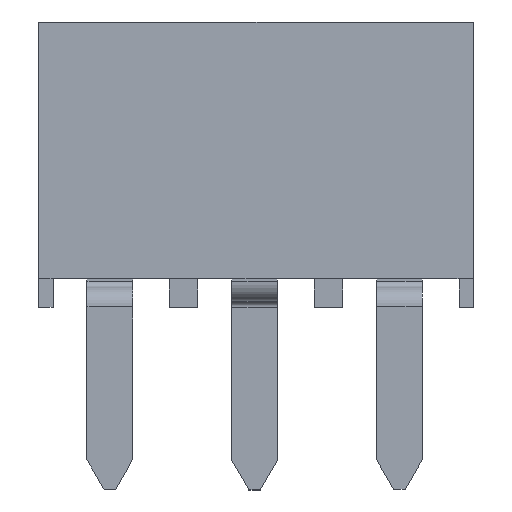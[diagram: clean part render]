
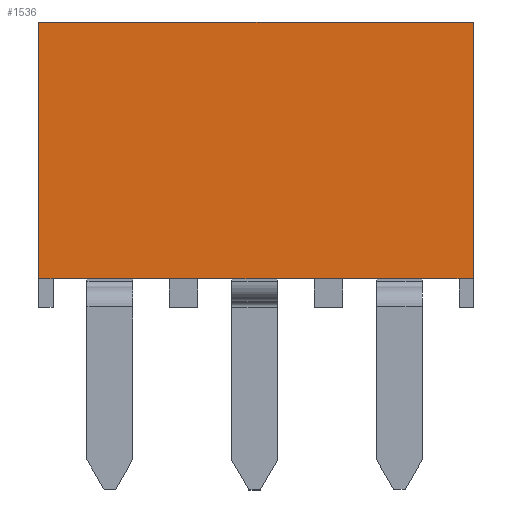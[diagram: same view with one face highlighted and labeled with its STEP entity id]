
A CAD part, top view. The second image highlights one B-rep face of the part: STEP entity #1536.
In plain terms, the highlighted planar face has unit normal (0, 0, 1).
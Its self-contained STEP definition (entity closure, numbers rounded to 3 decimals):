
#11 = LINE ( 'NONE', #1506, #1778 ) ;
#14 = VECTOR ( 'NONE', #1829, 1000. ) ;
#29 = ORIENTED_EDGE ( 'NONE', *, *, #1861, .T. ) ;
#51 = DIRECTION ( 'NONE',  ( 1., 0., 0. ) ) ;
#69 = LINE ( 'NONE', #2442, #1865 ) ;
#79 = CARTESIAN_POINT ( 'NONE',  ( 475.352, 169.787, 2.5 ) ) ;
#90 = EDGE_CURVE ( 'NONE', #1169, #1824, #1073, .T. ) ;
#128 = VERTEX_POINT ( 'NONE', #2032 ) ;
#146 = VECTOR ( 'NONE', #1118, 1000. ) ;
#158 = VECTOR ( 'NONE', #1123, 1000. ) ;
#163 = CARTESIAN_POINT ( 'NONE',  ( 475.352, 170.039, 2.5 ) ) ;
#179 = CARTESIAN_POINT ( 'NONE',  ( 473.062, 170.035, 2.5 ) ) ;
#229 = ORIENTED_EDGE ( 'NONE', *, *, #1689, .T. ) ;
#288 = ORIENTED_EDGE ( 'NONE', *, *, #2276, .T. ) ;
#292 = EDGE_LOOP ( 'NONE', ( #1708, #2456, #1380, #1174, #717, #1881, #229, #2432, #2153, #733, #1310, #29, #1377, #512, #641, #288 ) ) ;
#311 = VECTOR ( 'NONE', #1499, 1000. ) ;
#364 = VERTEX_POINT ( 'NONE', #1578 ) ;
#389 = CARTESIAN_POINT ( 'NONE',  ( 480.432, 170.035, 2.5 ) ) ;
#401 = VERTEX_POINT ( 'NONE', #1187 ) ;
#503 = VECTOR ( 'NONE', #1428, 1000. ) ;
#512 = ORIENTED_EDGE ( 'NONE', *, *, #90, .T. ) ;
#513 = CARTESIAN_POINT ( 'NONE',  ( 476.872, 174.539, 2.5 ) ) ;
#523 = CARTESIAN_POINT ( 'NONE',  ( 477.892, 170.035, 2.5 ) ) ;
#532 = CARTESIAN_POINT ( 'NONE',  ( 478.392, 170.039, 2.5 ) ) ;
#535 = CARTESIAN_POINT ( 'NONE',  ( 475.852, 169.787, 2.5 ) ) ;
#559 = LINE ( 'NONE', #1875, #146 ) ;
#564 = LINE ( 'NONE', #1977, #14 ) ;
#574 = EDGE_CURVE ( 'NONE', #667, #770, #965, .T. ) ;
#577 = CARTESIAN_POINT ( 'NONE',  ( 473.312, 170.039, 2.5 ) ) ;
#596 = VECTOR ( 'NONE', #2035, 1000. ) ;
#641 = ORIENTED_EDGE ( 'NONE', *, *, #2481, .T. ) ;
#649 = VERTEX_POINT ( 'NONE', #389 ) ;
#660 = CARTESIAN_POINT ( 'NONE',  ( 477.892, 169.787, 2.5 ) ) ;
#667 = VERTEX_POINT ( 'NONE', #2106 ) ;
#686 = EDGE_CURVE ( 'NONE', #401, #1409, #2027, .T. ) ;
#710 = FACE_OUTER_BOUND ( 'NONE', #292, .T. ) ;
#717 = ORIENTED_EDGE ( 'NONE', *, *, #574, .T. ) ;
#721 = VERTEX_POINT ( 'NONE', #179 ) ;
#726 = DIRECTION ( 'NONE',  ( 0., 1., 0. ) ) ;
#733 = ORIENTED_EDGE ( 'NONE', *, *, #1021, .T. ) ;
#751 = EDGE_CURVE ( 'NONE', #1613, #649, #784, .T. ) ;
#761 = CARTESIAN_POINT ( 'NONE',  ( 480.432, 172.287, 2.5 ) ) ;
#770 = VERTEX_POINT ( 'NONE', #1752 ) ;
#774 = EDGE_CURVE ( 'NONE', #770, #128, #844, .T. ) ;
#784 = LINE ( 'NONE', #761, #1159 ) ;
#806 = VECTOR ( 'NONE', #952, 1000. ) ;
#822 = PLANE ( 'NONE',  #1730 ) ;
#844 = LINE ( 'NONE', #1952, #1071 ) ;
#888 = DIRECTION ( 'NONE',  ( -1., 0., 0. ) ) ;
#952 = DIRECTION ( 'NONE',  ( 1., 0., 0. ) ) ;
#965 = LINE ( 'NONE', #535, #158 ) ;
#976 = CARTESIAN_POINT ( 'NONE',  ( 473.062, 174.539, 2.5 ) ) ;
#991 = LINE ( 'NONE', #660, #1926 ) ;
#992 = EDGE_CURVE ( 'NONE', #2378, #2271, #1023, .T. ) ;
#1021 = EDGE_CURVE ( 'NONE', #1290, #1613, #564, .T. ) ;
#1023 = LINE ( 'NONE', #79, #1931 ) ;
#1026 = LINE ( 'NONE', #2016, #503 ) ;
#1056 = CARTESIAN_POINT ( 'NONE',  ( 480.432, 170.039, 2.5 ) ) ;
#1071 = VECTOR ( 'NONE', #51, 1000. ) ;
#1073 = LINE ( 'NONE', #513, #2185 ) ;
#1102 = DIRECTION ( 'NONE',  ( 1., 0., 0. ) ) ;
#1118 = DIRECTION ( 'NONE',  ( 1., 0., 0. ) ) ;
#1123 = DIRECTION ( 'NONE',  ( 0., 1., 0. ) ) ;
#1130 = CARTESIAN_POINT ( 'NONE',  ( 473.062, 172.287, 2.5 ) ) ;
#1144 = CARTESIAN_POINT ( 'NONE',  ( 476.872, 170.035, 2.5 ) ) ;
#1159 = VECTOR ( 'NONE', #2089, 1000. ) ;
#1169 = VERTEX_POINT ( 'NONE', #1264 ) ;
#1174 = ORIENTED_EDGE ( 'NONE', *, *, #1316, .T. ) ;
#1187 = CARTESIAN_POINT ( 'NONE',  ( 473.312, 170.035, 2.5 ) ) ;
#1239 = DIRECTION ( 'NONE',  ( 0., -1., 0. ) ) ;
#1244 = EDGE_CURVE ( 'NONE', #1409, #2378, #69, .T. ) ;
#1264 = CARTESIAN_POINT ( 'NONE',  ( 480.682, 174.539, 2.5 ) ) ;
#1283 = EDGE_CURVE ( 'NONE', #364, #1290, #11, .T. ) ;
#1290 = VERTEX_POINT ( 'NONE', #532 ) ;
#1310 = ORIENTED_EDGE ( 'NONE', *, *, #751, .T. ) ;
#1316 = EDGE_CURVE ( 'NONE', #2271, #667, #2323, .T. ) ;
#1333 = DIRECTION ( 'NONE',  ( 1., 0., 0. ) ) ;
#1377 = ORIENTED_EDGE ( 'NONE', *, *, #2286, .T. ) ;
#1380 = ORIENTED_EDGE ( 'NONE', *, *, #992, .T. ) ;
#1386 = DIRECTION ( 'NONE',  ( 1., 0., 0. ) ) ;
#1409 = VERTEX_POINT ( 'NONE', #577 ) ;
#1428 = DIRECTION ( 'NONE',  ( 1., 0., 0. ) ) ;
#1443 = CARTESIAN_POINT ( 'NONE',  ( 480.682, 170.035, 2.5 ) ) ;
#1453 = LINE ( 'NONE', #1130, #311 ) ;
#1499 = DIRECTION ( 'NONE',  ( 0., -1., 0. ) ) ;
#1506 = CARTESIAN_POINT ( 'NONE',  ( 478.392, 172.287, 2.5 ) ) ;
#1536 = ADVANCED_FACE ( 'NONE', ( #710 ), #822, .T. ) ;
#1578 = CARTESIAN_POINT ( 'NONE',  ( 478.392, 170.035, 2.5 ) ) ;
#1613 = VERTEX_POINT ( 'NONE', #1056 ) ;
#1632 = CARTESIAN_POINT ( 'NONE',  ( 475.352, 170.035, 2.5 ) ) ;
#1689 = EDGE_CURVE ( 'NONE', #128, #2312, #991, .T. ) ;
#1708 = ORIENTED_EDGE ( 'NONE', *, *, #686, .T. ) ;
#1730 = AXIS2_PLACEMENT_3D ( 'NONE', #1783, #1746, #1386 ) ;
#1743 = VECTOR ( 'NONE', #1333, 1000. ) ;
#1746 = DIRECTION ( 'NONE',  ( 0., 0., 1. ) ) ;
#1752 = CARTESIAN_POINT ( 'NONE',  ( 475.852, 170.039, 2.5 ) ) ;
#1778 = VECTOR ( 'NONE', #726, 1000. ) ;
#1783 = CARTESIAN_POINT ( 'NONE',  ( 473.062, 170.035, 2.5 ) ) ;
#1799 = VERTEX_POINT ( 'NONE', #1443 ) ;
#1824 = VERTEX_POINT ( 'NONE', #976 ) ;
#1829 = DIRECTION ( 'NONE',  ( 1., 0., 0. ) ) ;
#1861 = EDGE_CURVE ( 'NONE', #649, #1799, #559, .T. ) ;
#1864 = EDGE_CURVE ( 'NONE', #2312, #364, #2253, .T. ) ;
#1865 = VECTOR ( 'NONE', #1102, 1000. ) ;
#1875 = CARTESIAN_POINT ( 'NONE',  ( 476.872, 170.035, 2.5 ) ) ;
#1881 = ORIENTED_EDGE ( 'NONE', *, *, #774, .T. ) ;
#1926 = VECTOR ( 'NONE', #2379, 1000. ) ;
#1931 = VECTOR ( 'NONE', #1239, 1000. ) ;
#1952 = CARTESIAN_POINT ( 'NONE',  ( 476.872, 170.039, 2.5 ) ) ;
#1977 = CARTESIAN_POINT ( 'NONE',  ( 479.412, 170.039, 2.5 ) ) ;
#2016 = CARTESIAN_POINT ( 'NONE',  ( 476.872, 170.035, 2.5 ) ) ;
#2027 = LINE ( 'NONE', #2290, #2479 ) ;
#2032 = CARTESIAN_POINT ( 'NONE',  ( 477.892, 170.039, 2.5 ) ) ;
#2035 = DIRECTION ( 'NONE',  ( 0., 1., 0. ) ) ;
#2086 = CARTESIAN_POINT ( 'NONE',  ( 476.872, 170.035, 2.5 ) ) ;
#2089 = DIRECTION ( 'NONE',  ( 0., -1., 0. ) ) ;
#2106 = CARTESIAN_POINT ( 'NONE',  ( 475.852, 170.035, 2.5 ) ) ;
#2153 = ORIENTED_EDGE ( 'NONE', *, *, #1283, .T. ) ;
#2179 = LINE ( 'NONE', #2220, #596 ) ;
#2185 = VECTOR ( 'NONE', #888, 1000. ) ;
#2220 = CARTESIAN_POINT ( 'NONE',  ( 480.682, 172.287, 2.5 ) ) ;
#2253 = LINE ( 'NONE', #1144, #1743 ) ;
#2271 = VERTEX_POINT ( 'NONE', #1632 ) ;
#2276 = EDGE_CURVE ( 'NONE', #721, #401, #1026, .T. ) ;
#2286 = EDGE_CURVE ( 'NONE', #1799, #1169, #2179, .T. ) ;
#2290 = CARTESIAN_POINT ( 'NONE',  ( 473.312, 169.787, 2.5 ) ) ;
#2312 = VERTEX_POINT ( 'NONE', #523 ) ;
#2313 = DIRECTION ( 'NONE',  ( 0., 1., 0. ) ) ;
#2323 = LINE ( 'NONE', #2086, #806 ) ;
#2378 = VERTEX_POINT ( 'NONE', #163 ) ;
#2379 = DIRECTION ( 'NONE',  ( 0., -1., 0. ) ) ;
#2432 = ORIENTED_EDGE ( 'NONE', *, *, #1864, .T. ) ;
#2442 = CARTESIAN_POINT ( 'NONE',  ( 476.872, 170.039, 2.5 ) ) ;
#2456 = ORIENTED_EDGE ( 'NONE', *, *, #1244, .T. ) ;
#2479 = VECTOR ( 'NONE', #2313, 1000. ) ;
#2481 = EDGE_CURVE ( 'NONE', #1824, #721, #1453, .T. ) ;
